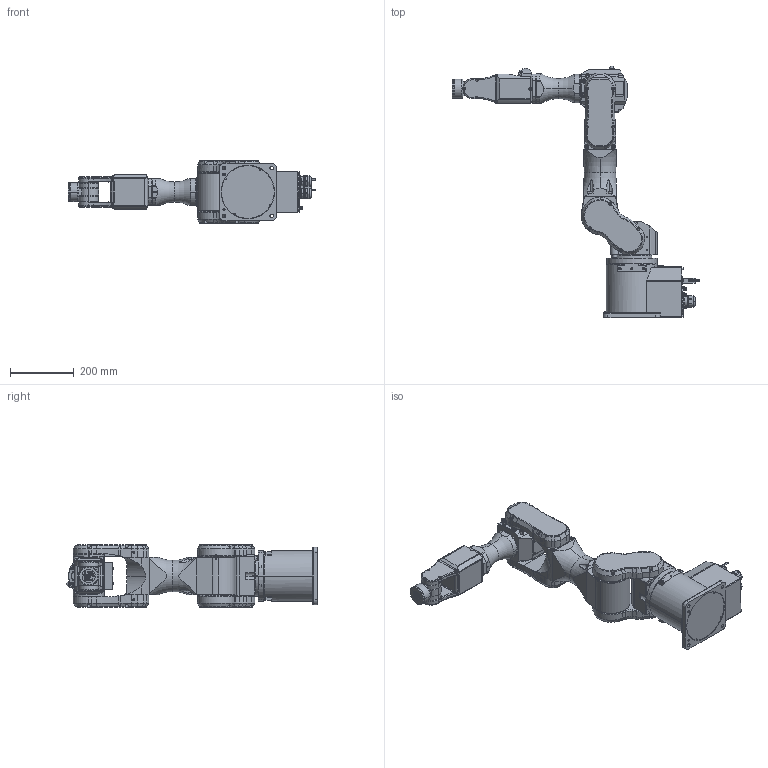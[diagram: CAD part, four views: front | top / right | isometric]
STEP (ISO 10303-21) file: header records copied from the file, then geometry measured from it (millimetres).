
FILE_DESCRIPTION( ( '' ), '1' );
FILE_NAME( '//expscmdclustefs.cadenas.external/client_exchange/iodir/jobs/output/wkb56950064_no0/STEP/C4_A901SR_2_03.stp', '2013-04-17T12:31:27', ( '' ), ( '' ), ' ', ' ', ' ' );
FILE_SCHEMA( ( 'CONFIG_CONTROL_DESIGN' ) );
Length unit declared in the file: millimetre
Products named in the file (7): 1; 2; 3; 4; 5; 6; 7
Bounding box: 779 x 790.46 x 198 mm (x, y, z)
Volume: 18288566 mm3; surface area: 1025881.4 mm2
Topology: 7 solids, 9 shells, 2613 faces, 6686 edges, 4214 vertices
Faces by surface type: plane 1156, cylinder 936, cone 292, torus 227, sphere 2
Entity records: 83611 total; most frequent: CARTESIAN_POINT 19205, DIRECTION 13974, ORIENTED_EDGE 13094, EDGE_CURVE 6547, AXIS2_PLACEMENT_3D 5268, VERTEX_POINT 4214, LINE 3438, VECTOR 3438
